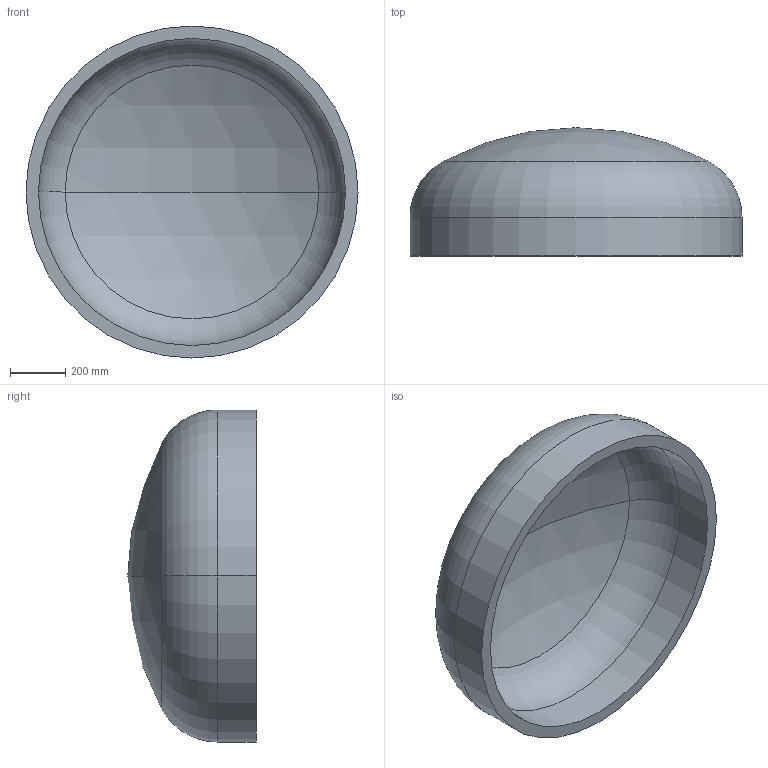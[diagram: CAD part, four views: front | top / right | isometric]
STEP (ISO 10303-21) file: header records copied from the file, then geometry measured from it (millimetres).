
FILE_DESCRIPTION (( 'STEP AP203' ), '1' );
FILE_NAME ('DIN 28013 Korbbogenform_-_Boden DIN 28013 - 1200 x 140 - I - s=45.step', '2016-07-01T09:29:45', ( '' ), ( '' ), 'SwSTEP 2.0', 'SolidWorks 2013', '' );
FILE_SCHEMA (( 'CONFIG_CONTROL_DESIGN' ));
Length unit declared in the file: millimetre
Products named in the file (1): DIN 28013 Korbbogenform_-_Boden DIN 28013 - 1200 x 140 - I - s=45
Bounding box: 1200 x 464.03 x 1200 mm (x, y, z)
Volume: 90011947.9 mm3; surface area: 4168055.5 mm2
Topology: 1 solids, 1 shells, 13 faces, 24 edges, 14 vertices
Faces by surface type: torus 4, cylinder 4, sphere 4, plane 1
Entity records: 407 total; most frequent: DIRECTION 72, CARTESIAN_POINT 52, ORIENTED_EDGE 48, AXIS2_PLACEMENT_3D 34, EDGE_CURVE 24, CIRCLE 20, EDGE_LOOP 14, VERTEX_POINT 14
